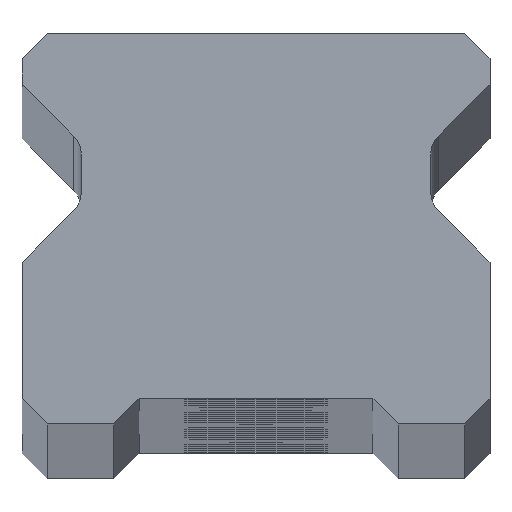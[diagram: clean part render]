
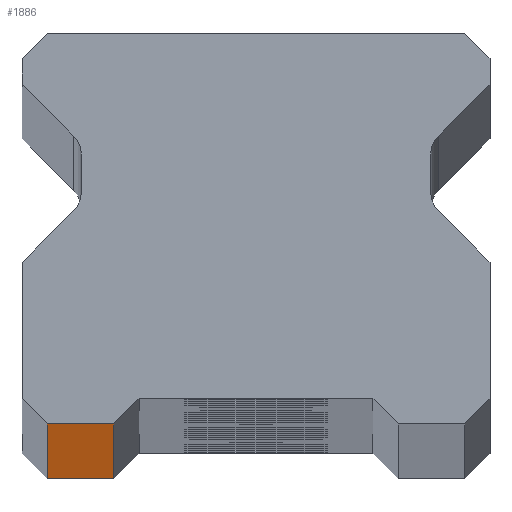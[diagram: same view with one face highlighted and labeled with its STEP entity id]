
A CAD part, top view. The second image highlights one B-rep face of the part: STEP entity #1886.
In plain terms, the highlighted planar face has unit normal (0, -1, 0).
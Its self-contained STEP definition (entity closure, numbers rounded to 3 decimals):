
#368 = EDGE_CURVE ( 'NONE', #1229, #3557, #1461, .T. ) ;
#417 = ORIENTED_EDGE ( 'NONE', *, *, #3110, .T. ) ;
#554 = FACE_OUTER_BOUND ( 'NONE', #2119, .T. ) ;
#609 = VERTEX_POINT ( 'NONE', #2969 ) ;
#792 = CARTESIAN_POINT ( 'NONE',  ( -7., 0., -770. ) ) ;
#826 = LINE ( 'NONE', #792, #1659 ) ;
#884 = LINE ( 'NONE', #2102, #3604 ) ;
#1078 = EDGE_CURVE ( 'NONE', #1229, #609, #4821, .T. ) ;
#1229 = VERTEX_POINT ( 'NONE', #1919 ) ;
#1308 = VERTEX_POINT ( 'NONE', #3127 ) ;
#1372 = PLANE ( 'NONE',  #4803 ) ;
#1461 = LINE ( 'NONE', #3842, #2221 ) ;
#1577 = VECTOR ( 'NONE', #4043, 1000. ) ;
#1659 = VECTOR ( 'NONE', #3850, 1000. ) ;
#1848 = CARTESIAN_POINT ( 'NONE',  ( 11.5, 0., 770. ) ) ;
#1886 = ADVANCED_FACE ( 'NONE', ( #554 ), #1372, .F. ) ;
#1919 = CARTESIAN_POINT ( 'NONE',  ( -10.25, 0., 770. ) ) ;
#2102 = CARTESIAN_POINT ( 'NONE',  ( 11.5, 0., -770. ) ) ;
#2119 = EDGE_LOOP ( 'NONE', ( #2843, #417, #4709, #2729 ) ) ;
#2221 = VECTOR ( 'NONE', #2335, 1000. ) ;
#2335 = DIRECTION ( 'NONE',  ( 0., 0., -1. ) ) ;
#2576 = DIRECTION ( 'NONE',  ( -1., 0., 0. ) ) ;
#2618 = CARTESIAN_POINT ( 'NONE',  ( -10.25, 0., -770. ) ) ;
#2729 = ORIENTED_EDGE ( 'NONE', *, *, #368, .T. ) ;
#2843 = ORIENTED_EDGE ( 'NONE', *, *, #3984, .T. ) ;
#2969 = CARTESIAN_POINT ( 'NONE',  ( -7., 0., 770. ) ) ;
#3110 = EDGE_CURVE ( 'NONE', #1308, #609, #826, .T. ) ;
#3127 = CARTESIAN_POINT ( 'NONE',  ( -7., 0., -770. ) ) ;
#3557 = VERTEX_POINT ( 'NONE', #2618 ) ;
#3604 = VECTOR ( 'NONE', #4314, 1000. ) ;
#3842 = CARTESIAN_POINT ( 'NONE',  ( -10.25, 0., 770. ) ) ;
#3850 = DIRECTION ( 'NONE',  ( 0., 0., 1. ) ) ;
#3984 = EDGE_CURVE ( 'NONE', #3557, #1308, #884, .T. ) ;
#4043 = DIRECTION ( 'NONE',  ( 1., 0., 0. ) ) ;
#4314 = DIRECTION ( 'NONE',  ( 1., 0., 0. ) ) ;
#4709 = ORIENTED_EDGE ( 'NONE', *, *, #1078, .F. ) ;
#4761 = CARTESIAN_POINT ( 'NONE',  ( 11.5, 0., 770. ) ) ;
#4803 = AXIS2_PLACEMENT_3D ( 'NONE', #1848, #4870, #2576 ) ;
#4821 = LINE ( 'NONE', #4761, #1577 ) ;
#4870 = DIRECTION ( 'NONE',  ( 0., 1., 0. ) ) ;
